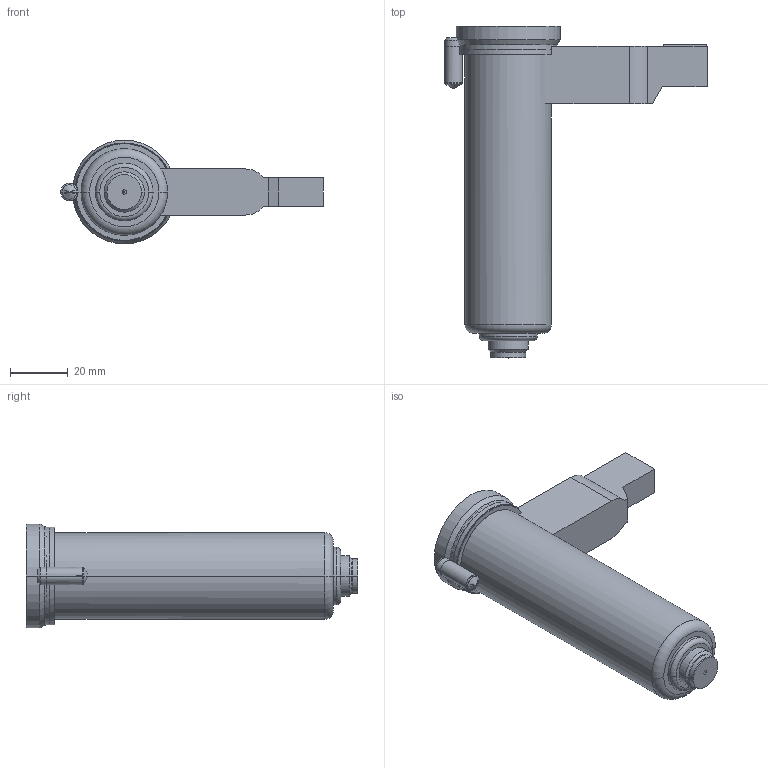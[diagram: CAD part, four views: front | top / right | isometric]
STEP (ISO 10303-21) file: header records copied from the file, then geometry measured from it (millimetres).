
FILE_DESCRIPTION((''),'2;1');
FILE_NAME('SV250014-TYPE1_ASM','2013-02-21T',('benoit'),(''),'PRO/ENGINEER BY PARAMETRIC TECHNOLOGY CORPORATION, 2007450','PRO/ENGINEER BY PARAMETRIC TECHNOLOGY CORPORATION, 2007450','');
FILE_SCHEMA(('CONFIG_CONTROL_DESIGN'));
Length unit declared in the file: millimetre
Products named in the file (8): MB250014; BF250004; TP250502; TP250503; GOUPILLE-6-16; 18X1_2E; SV6-POCHE-115-C_T1; SV250014-TYPE1_ASM
Assembly tree (7 placements, depth 2):
  SV250014-TYPE1_ASM
    MB250014
    BF250004
    TP250502
    TP250503
    GOUPILLE-6-16
    18X1_2E
    SV6-POCHE-115-C_T1
Bounding box: 91 x 115.1 x 36 mm (x, y, z)
Volume: 133163.6 mm3; surface area: 51897.2 mm2
Topology: 9 solids, 9 shells, 240 faces, 573 edges, 355 vertices
Faces by surface type: cylinder 98, plane 68, cone 38, bspline 16, torus 14, sphere 6
Entity records: 10557 total; most frequent: CARTESIAN_POINT 4779, DIRECTION 1250, ORIENTED_EDGE 1134, EDGE_CURVE 567, AXIS2_PLACEMENT_3D 509, VERTEX_POINT 355, CIRCLE 270, EDGE_LOOP 260
